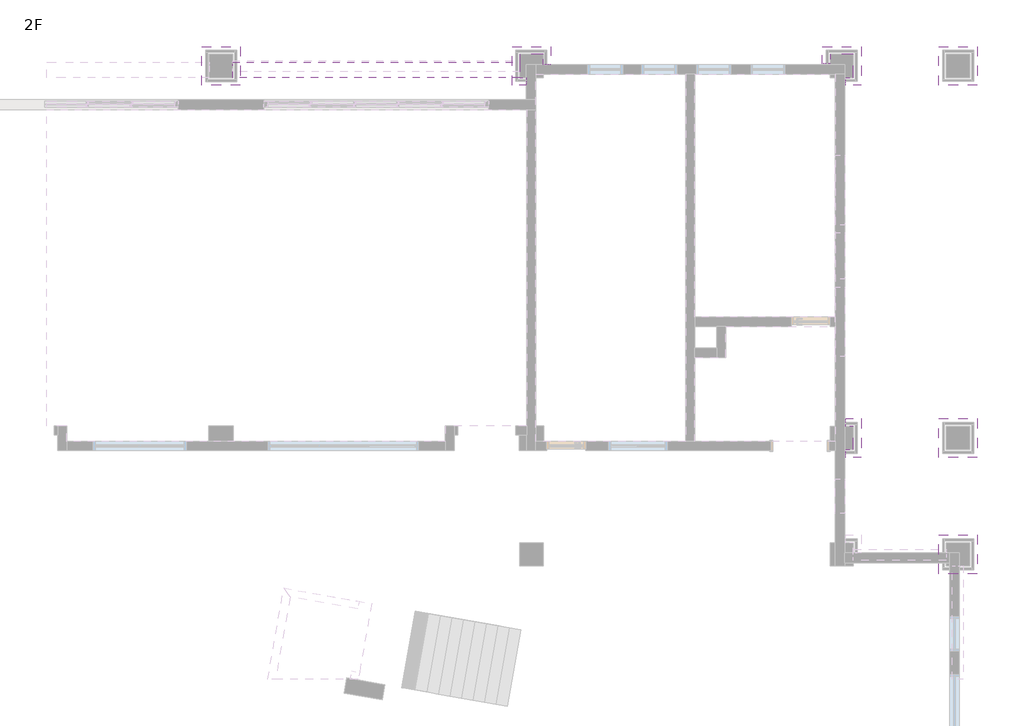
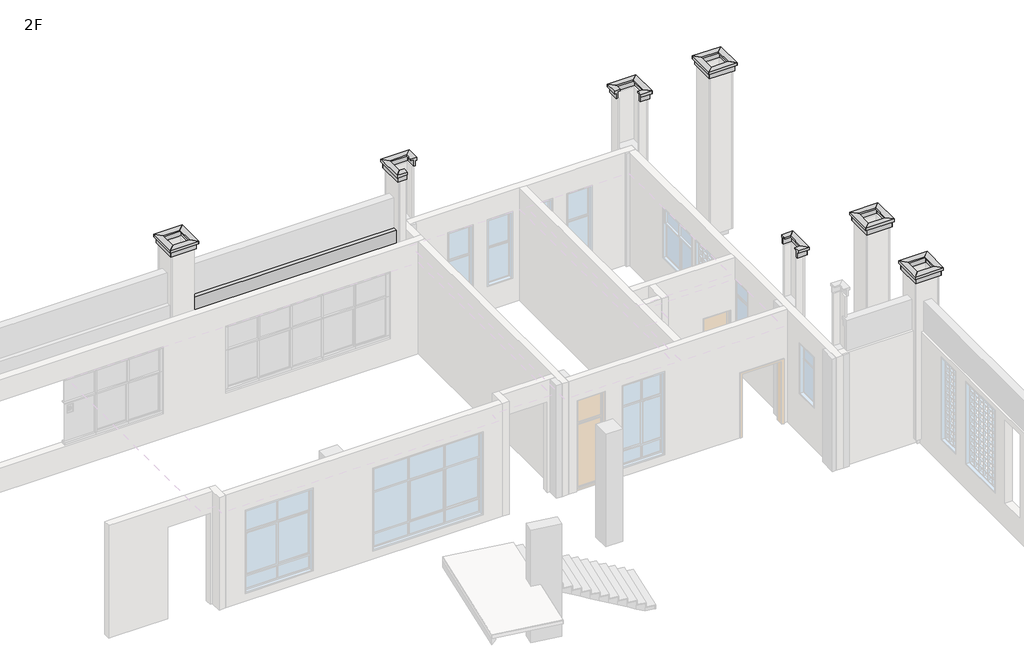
# One storey, part 16 of 16: 8 proxies.
"""IFC4 building model written with IfcOpenShell, lengths in millimetres."""

import ifcopenshell
import ifcopenshell.guid

model = None  # the IFC model being written
_history = None  # IfcOwnerHistory: only IFC2X3 demands one
_inside = {}  # id of a spatial element -> (the spatial element, [elements in it])
_under = {}  # id of a project, library or spatial element -> (it, [spatial elements below it])
_declared = {}  # id of a project -> (the project, [libraries it declares])
_typed = {}  # id of a type object -> (the type object, [elements of that type])
_made_of = {}  # id of a material, layer set ... -> (it, [elements and type objects made of it])


def new_model(schema):
    """Start an empty IFC model of exactly this schema.

    Asked for "IFC4X3", IfcOpenShell would pick the latest addendum, in which some entities
    have other attributes; the version numbers below select the first issue.
    IFC2X3 requires an IfcOwnerHistory on every rooted entity: one is made here for all.
    """
    global model, _history
    if schema == "IFC4X3":
        model = ifcopenshell.file(schema_version=(4, 3, 0, 0))
    else:
        model = ifcopenshell.file(schema=schema)
    _inside.clear()
    _under.clear()
    _declared.clear()
    _typed.clear()
    _made_of.clear()
    _history = None
    if model.schema == "IFC2X3":
        org = make("IfcOrganization", Name="unknown")
        user = make(
            "IfcPersonAndOrganization",
            ThePerson=make("IfcPerson", FamilyName="unknown"),
            TheOrganization=org,
        )
        app = make(
            "IfcApplication",
            ApplicationDeveloper=org,
            Version="unknown",
            ApplicationFullName="unknown",
            ApplicationIdentifier="unknown",
        )
        _history = make(
            "IfcOwnerHistory",
            OwningUser=user,
            OwningApplication=app,
            ChangeAction="ADDED",
            CreationDate=0,
        )
    return model


def make(cls, **values):
    """One entity of the class cls with the attributes given. An attribute that is None is left unset."""
    return model.create_entity(
        cls, **{name: value for name, value in values.items() if value is not None}
    )


def rooted(cls, **values):
    """An entity with a GlobalId (a new one), such as an element, a storey or a relation."""
    return make(cls, GlobalId=ifcopenshell.guid.new(), OwnerHistory=_history, **values)


def si_unit(unit_type, name, prefix=None):
    """IfcSIUnit, for example si_unit("LENGTHUNIT", "METRE", prefix="MILLI")."""
    return make("IfcSIUnit", UnitType=unit_type, Prefix=prefix, Name=name)


def assignment(units):
    """IfcUnitAssignment: the units of a project."""
    return None if units is None else make("IfcUnitAssignment", Units=units)


def point(xyz):
    """IfcCartesianPoint."""
    return None if xyz is None else make("IfcCartesianPoint", Coordinates=xyz)


def direction(xyz):
    """IfcDirection."""
    return None if xyz is None else make("IfcDirection", DirectionRatios=xyz)


def frame(location, z_axis=None, x_axis=None):
    """IfcAxis2Placement3D, a coordinate frame: its origin and axes. An axis left out is left unset."""
    return make(
        "IfcAxis2Placement3D",
        Location=point(location),
        Axis=direction(z_axis),
        RefDirection=direction(x_axis),
    )


def frame_2d(location, x_axis=None):
    """IfcAxis2Placement2D, a coordinate frame in the plane: its origin and x axis."""
    return make(
        "IfcAxis2Placement2D", Location=point(location), RefDirection=direction(x_axis)
    )


def origin():
    """The frame at (0, 0, 0) with its axes left unset."""
    return frame((0.0, 0.0, 0.0))


def place(relative_to, where):
    """IfcLocalPlacement: puts the frame where relative to a parent placement (None: the world)."""
    return make(
        "IfcLocalPlacement", PlacementRelTo=relative_to, RelativePlacement=where
    )


def context(
    kind, dimensions, precision=None, world=None, true_north=None, identifier=None
):
    """IfcGeometricRepresentationContext, for example the 3D "Model" context."""
    return make(
        "IfcGeometricRepresentationContext",
        ContextIdentifier=identifier,
        ContextType=kind,
        CoordinateSpaceDimension=dimensions,
        Precision=precision,
        WorldCoordinateSystem=world,
        TrueNorth=true_north,
    )


def project(units=None, contexts=None):
    """IfcProject with its units and contexts."""
    return rooted(
        "IfcProject",
        Name="project",
        RepresentationContexts=contexts,
        UnitsInContext=assignment(units),
    )


def spatial(cls, under=None, at=None, **own):
    """A site, building, storey or space (cls), placed at a placement, below another one or the project."""
    s = rooted(cls, ObjectPlacement=at, **own)
    if under is not None:
        _under.setdefault(under.id(), (under, []))[1].append(s)
    return s


def polyline(points):
    """IfcPolyline through the points."""
    return make("IfcPolyline", Points=[point(p) for p in points])


def circle_curve(where, radius):
    """IfcCircle in the frame where."""
    return make("IfcCircle", Position=where, Radius=radius)


def trimmed(basis, trim1, trim2, sense, master):
    """IfcTrimmedCurve: the piece of a basis curve between two trims."""
    return make(
        "IfcTrimmedCurve",
        BasisCurve=basis,
        Trim1=trim1,
        Trim2=trim2,
        SenseAgreement=sense,
        MasterRepresentation=master,
    )


def segment(curve, same_sense, transition):
    """IfcCompositeCurveSegment."""
    return make(
        "IfcCompositeCurveSegment",
        Transition=transition,
        SameSense=same_sense,
        ParentCurve=curve,
    )


def composite_curve(segments, self_intersect=None):
    """IfcCompositeCurve: segments joined end to end."""
    return make("IfcCompositeCurve", Segments=segments, SelfIntersect=self_intersect)


def outline(outer, holes=None, kind="AREA"):
    """IfcArbitraryClosedProfileDef: a profile drawn as a closed curve; with holes, ...WithVoids."""
    if holes is None:
        return make("IfcArbitraryClosedProfileDef", ProfileType=kind, OuterCurve=outer)
    return make(
        "IfcArbitraryProfileDefWithVoids",
        ProfileType=kind,
        OuterCurve=outer,
        InnerCurves=holes,
    )


def extrude(swept, where, along, depth):
    """IfcExtrudedAreaSolid: the profile swept, set in the frame where, extruded along a direction by depth."""
    return make(
        "IfcExtrudedAreaSolid",
        SweptArea=swept,
        Position=where,
        ExtrudedDirection=direction(along),
        Depth=depth,
    )


def faces_of(points, faces, orient=None, outer=None):
    """IfcFace entities. A face is a list of loops; a loop is a list of indices into points, from 0.

    orient and outer hold one flag for each loop. By default every Orientation is true, the
    first loop of a face is its IfcFaceOuterBound and the others are IfcFaceBound.
    """
    made = []
    for i, loops in enumerate(faces):
        bounds = []
        for j, loop in enumerate(loops):
            is_outer = j == 0 if outer is None else outer[i][j]
            bounds.append(
                make(
                    "IfcFaceOuterBound" if is_outer else "IfcFaceBound",
                    Bound=make("IfcPolyLoop", Polygon=[points[k] for k in loop]),
                    Orientation=True if orient is None else orient[i][j],
                )
            )
        made.append(make("IfcFace", Bounds=bounds))
    return made


def faceted_brep(points, faces, orient=None, outer=None, voids=None):
    """IfcFacetedBrep: a solid bounded by flat faces; with voids (closed shells), ...WithVoids."""
    shared = [point(p) for p in points]
    hull = make("IfcClosedShell", CfsFaces=faces_of(shared, faces, orient, outer))
    if voids is None:
        return make("IfcFacetedBrep", Outer=hull)
    return make(
        "IfcFacetedBrepWithVoids",
        Outer=hull,
        Voids=[
            make(cls, CfsFaces=faces_of(shared, fs, o, b)) for cls, fs, o, b in voids
        ],
    )


def shape(context_of_items, identifier, shape_type, items):
    """IfcShapeRepresentation: the items that make up one representation, for example the "Body"."""
    return make(
        "IfcShapeRepresentation",
        ContextOfItems=context_of_items,
        RepresentationIdentifier=identifier,
        RepresentationType=shape_type,
        Items=items,
    )


def source(mapping_origin, context_of_items, identifier, shape_type, items):
    """IfcRepresentationMap: a shape defined once, which mapped items show again and again."""
    return make(
        "IfcRepresentationMap",
        MappingOrigin=mapping_origin,
        MappedRepresentation=shape(context_of_items, identifier, shape_type, items),
    )


def transform(
    local_origin,
    x_axis=None,
    y_axis=None,
    z_axis=None,
    scale=None,
    scale2=None,
    scale3=None,
    uniform=True,
):
    """IfcCartesianTransformationOperator3D, or its non-uniform kind. x_axis, y_axis, z_axis: its Axis1, 2, 3."""
    if uniform:
        return make(
            "IfcCartesianTransformationOperator3D",
            Axis1=direction(x_axis),
            Axis2=direction(y_axis),
            LocalOrigin=point(local_origin),
            Scale=scale,
            Axis3=direction(z_axis),
        )
    return make(
        "IfcCartesianTransformationOperator3DnonUniform",
        Axis1=direction(x_axis),
        Axis2=direction(y_axis),
        LocalOrigin=point(local_origin),
        Scale=scale,
        Axis3=direction(z_axis),
        Scale2=scale2,
        Scale3=scale3,
    )


def mapped(mapping_source, mapping_target):
    """IfcMappedItem: shows the shape of a source again, moved by a transform."""
    return make(
        "IfcMappedItem", MappingSource=mapping_source, MappingTarget=mapping_target
    )


def made_of(thing, what):
    """Note that an element or type object is made of a material, layer set ...; save() writes the relation."""
    if what is not None:
        _made_of.setdefault(what.id(), (what, []))[1].append(thing)
    return thing


def element(
    cls,
    number,
    at=None,
    inside=None,
    cuts=None,
    type_object=None,
    material=None,
    context=None,
    identifier="Body",
    shape_type=None,
    held_by="IfcProductDefinitionShape",
    body=None,
    shapes=None,
    **own,
):
    """One element of the class cls, such as IfcWall. Its Tag is "e" and its number.

    at: its placement. inside: the storey or other place that contains it. cuts: it is an
    opening in that element (IfcRelVoidsElement). A single representation is given by context,
    identifier, shape_type and body (its items); several are given by shapes. held_by: the class
    of the entity that holds the representations. save() writes the other relations.
    """
    e = rooted(cls, Tag="e%d" % number, ObjectPlacement=at, **own)
    if body is not None:
        shapes = [shape(context, identifier, shape_type, body)]
    if shapes is not None:
        e.Representation = make(held_by, Representations=shapes)
    if inside is not None:
        _inside.setdefault(inside.id(), (inside, []))[1].append(e)
    if cuts is not None:
        rooted(
            "IfcRelVoidsElement", RelatingBuildingElement=cuts, RelatedOpeningElement=e
        )
    if type_object is not None:
        _typed.setdefault(type_object.id(), (type_object, []))[1].append(e)
    return made_of(e, material)


def aggregate(whole, parts):
    """IfcRelAggregates: a whole, such as a stair, and the parts it consists of."""
    return rooted("IfcRelAggregates", RelatingObject=whole, RelatedObjects=parts)


def save(model, path):
    """Write the relations noted so far, then the file.

    IfcRelAggregates (storeys below a building ...), IfcRelContainedInSpatialStructure (elements
    in a storey), IfcRelDefinesByType, IfcRelAssociatesMaterial and IfcRelDeclares: one each for
    every whole, place, type object, material and project.
    """
    for whole, parts in _under.values():
        aggregate(whole, parts)
    for where, things in _inside.values():
        rooted(
            "IfcRelContainedInSpatialStructure",
            RelatedElements=things,
            RelatingStructure=where,
        )
    for kind, things in _typed.values():
        rooted("IfcRelDefinesByType", RelatedObjects=things, RelatingType=kind)
    for what, things in _made_of.values():
        rooted("IfcRelAssociatesMaterial", RelatedObjects=things, RelatingMaterial=what)
    for by, libraries in _declared.values():
        rooted("IfcRelDeclares", RelatingContext=by, RelatedDefinitions=libraries)
    model.write(path)


def generic_models_00445dfb(model_context):
    return source(origin(), model_context, "Body", "SweptSolid", [
        extrude(outline(composite_curve([segment(polyline([(-1311.4739289, 7400.0), (-1205.9106789, 7400.0)]), True, "CONTINUOUS"), segment(trimmed(circle_curve(frame_2d((-12200.0, 3700.0)), 11600.0), [point((-1205.9106789, 7400.0))], [point((-1205.9106789, 0.0))], False, "CARTESIAN"), True, "CONTINUOUS"), segment(polyline([(-1205.9106789, 0.0), (-1311.4739289, 0.0)]), True, "CONTINUOUS"), segment(trimmed(circle_curve(frame_2d((-12200.0, 3700.0)), 11500.0), [point((-1311.4739289, 0.0))], [point((-1311.4739289, 7400.0))], True, "CARTESIAN"), True, "CONTINUOUS")], self_intersect=False)), frame((0.0, 150.0, 0.0), z_axis=(0.0, 1.0, 0.0), x_axis=(0.0, 0.0, 1.0)), (0.0, 0.0, 1.0), 100.0),
        extrude(outline(composite_curve([segment(polyline([(0.0, 7400.0), (0.0, 0.0), (-1311.4739289, 0.0)]), True, "CONTINUOUS"), segment(trimmed(circle_curve(frame_2d((-12200.0, 3700.0)), 11500.0), [point((-1311.4739289, 0.0))], [point((-1311.4739289, 7400.0))], True, "CARTESIAN"), True, "CONTINUOUS"), segment(polyline([(-1311.4739289, 7400.0), (0.0, 7400.0)]), True, "CONTINUOUS")], self_intersect=False)), frame((0.0, -150.0, 0.0), z_axis=(0.0, 1.0, 0.0), x_axis=(0.0, 0.0, 1.0)), (0.0, 0.0, 1.0), 300.0),
    ])


model = new_model("IFC4")

# Units and contexts
model_context = context("Model", 3, world=origin())
ifc_project = project(units=[si_unit("LENGTHUNIT", "METRE", prefix="MILLI")], contexts=[model_context])

# Site, building, storey
site = spatial("IfcSite", under=ifc_project)
building = spatial("IfcBuilding", under=site)
storey = spatial("IfcBuildingStorey", under=building, Name="2F", Elevation=4200.0)

# Proxies
placement = place(None, origin())
generic_models_shape = generic_models_00445dfb(model_context)
element("IfcBuildingElementProxy", 1, Name="走廊板 : h=300mm", ObjectType="走廊板 : h=300mm", at=placement, inside=storey, context=model_context, shape_type="MappedRepresentation", body=[
    mapped(generic_models_shape, transform((67300.0, 33050.0, 8400.0), x_axis=(1.0, 0.0, 0.0), y_axis=(0.0, 1.0, 0.0), z_axis=(0.0, 0.0, 1.0))),
])
element("IfcBuildingElementProxy", 2, Name="QS2", ObjectType="QS2", at=placement, inside=storey, context=model_context, shape_type="Brep", body=[
    faceted_brep([(66550.0, 32749.640208, 10300.0), (66600.0, 32799.640208, 10300.0), (66600.0, 32799.640208, 10550.0), (66700.0, 32899.640208, 10550.0), (66700.0, 32899.640208, 10600.0), (66500.0, 32699.640208, 10600.0), (66500.0, 32699.640208, 10500.0), (66550.0, 32749.640208, 10500.0), (66550.0, 33650.0, 10300.0), (66550.0, 33650.0, 10500.0), (66500.0, 33700.0, 10500.0), (66500.0, 33700.0, 10600.0), (66700.0, 33500.0, 10600.0), (66700.0, 33500.0, 10550.0), (66600.0, 33600.0, 10550.0), (66600.0, 33600.0, 10300.0)], [[[0, 1, 2, 3, 4, 5, 6, 7]], [[8, 9, 10, 11, 12, 13, 14, 15]], [[1, 0, 8, 15]], [[2, 1, 15, 14]], [[3, 2, 14, 13]], [[4, 3, 13, 12]], [[5, 4, 12, 11]], [[6, 5, 11, 10]], [[7, 6, 10, 9]], [[0, 7, 9, 8]]]),
    faceted_brep([(66550.0, 33650.0, 10300.0), (66600.0, 33600.0, 10300.0), (66600.0, 33600.0, 10550.0), (66700.0, 33500.0, 10550.0), (66700.0, 33500.0, 10600.0), (66500.0, 33700.0, 10600.0), (66500.0, 33700.0, 10500.0), (66550.0, 33650.0, 10500.0), (67450.0, 33650.0, 10300.0), (67450.0, 33650.0, 10500.0), (67500.0, 33700.0, 10500.0), (67500.0, 33700.0, 10600.0), (67300.0, 33500.0, 10600.0), (67300.0, 33500.0, 10550.0), (67400.0, 33600.0, 10550.0), (67400.0, 33600.0, 10300.0)], [[[0, 1, 2, 3, 4, 5, 6, 7]], [[8, 9, 10, 11, 12, 13, 14, 15]], [[1, 0, 8, 15]], [[2, 1, 15, 14]], [[3, 2, 14, 13]], [[4, 3, 13, 12]], [[5, 4, 12, 11]], [[6, 5, 11, 10]], [[7, 6, 10, 9]], [[0, 7, 9, 8]]]),
    faceted_brep([(67450.0, 33650.0, 10300.0), (67400.0, 33600.0, 10300.0), (67400.0, 33600.0, 10550.0), (67300.0, 33500.0, 10550.0), (67300.0, 33500.0, 10600.0), (67500.0, 33700.0, 10600.0), (67500.0, 33700.0, 10500.0), (67450.0, 33650.0, 10500.0), (67450.0, 32749.640208, 10300.0), (67450.0, 32749.640208, 10500.0), (67500.0, 32699.640208, 10500.0), (67500.0, 32699.640208, 10600.0), (67300.0, 32899.640208, 10600.0), (67300.0, 32899.640208, 10550.0), (67400.0, 32799.640208, 10550.0), (67400.0, 32799.640208, 10300.0)], [[[0, 1, 2, 3, 4, 5, 6, 7]], [[8, 9, 10, 11, 12, 13, 14, 15]], [[1, 0, 8, 15]], [[2, 1, 15, 14]], [[3, 2, 14, 13]], [[4, 3, 13, 12]], [[5, 4, 12, 11]], [[6, 5, 11, 10]], [[7, 6, 10, 9]], [[0, 7, 9, 8]]]),
    faceted_brep([(67450.0, 32749.640208, 10300.0), (67400.0, 32799.640208, 10300.0), (67400.0, 32799.640208, 10550.0), (67300.0, 32899.640208, 10550.0), (67300.0, 32899.640208, 10600.0), (67500.0, 32699.640208, 10600.0), (67500.0, 32699.640208, 10500.0), (67450.0, 32749.640208, 10500.0), (66550.0, 32749.640208, 10300.0), (66550.0, 32749.640208, 10500.0), (66500.0, 32699.640208, 10500.0), (66500.0, 32699.640208, 10600.0), (66700.0, 32899.640208, 10600.0), (66700.0, 32899.640208, 10550.0), (66600.0, 32799.640208, 10550.0), (66600.0, 32799.640208, 10300.0)], [[[0, 1, 2, 3, 4, 5, 6, 7]], [[8, 9, 10, 11, 12, 13, 14, 15]], [[1, 0, 8, 15]], [[2, 1, 15, 14]], [[3, 2, 14, 13]], [[4, 3, 13, 12]], [[5, 4, 12, 11]], [[6, 5, 11, 10]], [[7, 6, 10, 9]], [[0, 7, 9, 8]]]),
])
element("IfcBuildingElementProxy", 3, Name="QS2", ObjectType="QS2", at=placement, inside=storey, context=model_context, shape_type="Brep", body=[
    faceted_brep([(75450.0, 33232.6954642, 10300.0), (75450.0, 33232.6954642, 10500.0), (75500.0, 33232.6954642, 10500.0), (75500.0, 33232.6954642, 10600.0), (75300.0, 33232.6954642, 10600.0), (75300.0, 33232.6954642, 10550.0), (75400.0, 33232.6954642, 10550.0), (75400.0, 33232.6954642, 10300.0), (75450.0, 33650.0, 10300.0), (75400.0, 33600.0, 10300.0), (75400.0, 33600.0, 10550.0), (75300.0, 33500.0, 10550.0), (75300.0, 33500.0, 10600.0), (75500.0, 33700.0, 10600.0), (75500.0, 33700.0, 10500.0), (75450.0, 33650.0, 10500.0)], [[[0, 1, 2, 3, 4, 5, 6, 7]], [[8, 9, 10, 11, 12, 13, 14, 15]], [[0, 7, 9, 8]], [[7, 6, 10, 9]], [[6, 5, 11, 10]], [[5, 4, 12, 11]], [[4, 3, 13, 12]], [[3, 2, 14, 13]], [[2, 1, 15, 14]], [[1, 0, 8, 15]]]),
    faceted_brep([(75450.0, 33650.0, 10300.0), (75450.0, 33650.0, 10500.0), (75500.0, 33700.0, 10500.0), (75500.0, 33700.0, 10600.0), (75300.0, 33500.0, 10600.0), (75300.0, 33500.0, 10550.0), (75400.0, 33600.0, 10550.0), (75400.0, 33600.0, 10300.0), (74550.0, 33650.0, 10300.0), (74600.0, 33600.0, 10300.0), (74600.0, 33600.0, 10550.0), (74700.0, 33500.0, 10550.0), (74700.0, 33500.0, 10600.0), (74500.0, 33700.0, 10600.0), (74500.0, 33700.0, 10500.0), (74550.0, 33650.0, 10500.0)], [[[0, 1, 2, 3, 4, 5, 6, 7]], [[8, 9, 10, 11, 12, 13, 14, 15]], [[0, 7, 9, 8]], [[7, 6, 10, 9]], [[6, 5, 11, 10]], [[5, 4, 12, 11]], [[4, 3, 13, 12]], [[3, 2, 14, 13]], [[2, 1, 15, 14]], [[1, 0, 8, 15]]]),
    faceted_brep([(74550.0, 33650.0, 10300.0), (74550.0, 33650.0, 10500.0), (74500.0, 33700.0, 10500.0), (74500.0, 33700.0, 10600.0), (74700.0, 33500.0, 10600.0), (74700.0, 33500.0, 10550.0), (74600.0, 33600.0, 10550.0), (74600.0, 33600.0, 10300.0), (74550.0, 32750.0, 10300.0), (74600.0, 32800.0, 10300.0), (74600.0, 32800.0, 10550.0), (74700.0, 32900.0, 10550.0), (74700.0, 32900.0, 10600.0), (74500.0, 32700.0, 10600.0), (74500.0, 32700.0, 10500.0), (74550.0, 32750.0, 10500.0)], [[[0, 1, 2, 3, 4, 5, 6, 7]], [[8, 9, 10, 11, 12, 13, 14, 15]], [[0, 7, 9, 8]], [[7, 6, 10, 9]], [[6, 5, 11, 10]], [[5, 4, 12, 11]], [[4, 3, 13, 12]], [[3, 2, 14, 13]], [[2, 1, 15, 14]], [[1, 0, 8, 15]]]),
    faceted_brep([(74550.0, 32750.0, 10300.0), (74550.0, 32750.0, 10500.0), (74500.0, 32700.0, 10500.0), (74500.0, 32700.0, 10600.0), (74700.0, 32900.0, 10600.0), (74700.0, 32900.0, 10550.0), (74600.0, 32800.0, 10550.0), (74600.0, 32800.0, 10300.0), (74867.0, 32750.0, 10300.0), (74867.0, 32800.0, 10300.0), (74867.0, 32800.0, 10550.0), (74867.0, 32900.0, 10550.0), (74867.0, 32900.0, 10600.0), (74867.0, 32700.0, 10600.0), (74867.0, 32700.0, 10500.0), (74867.0, 32750.0, 10500.0)], [[[0, 1, 2, 3, 4, 5, 6, 7]], [[8, 9, 10, 11, 12, 13, 14, 15]], [[0, 7, 9, 8]], [[7, 6, 10, 9]], [[6, 5, 11, 10]], [[5, 4, 12, 11]], [[4, 3, 13, 12]], [[3, 2, 14, 13]], [[2, 1, 15, 14]], [[1, 0, 8, 15]]]),
])
element("IfcBuildingElementProxy", 4, Name="QS2", ObjectType="QS2", at=placement, inside=storey, context=model_context, shape_type="Brep", body=[
    faceted_brep([(86450.0, 32750.0, 10300.0), (86450.0, 32750.0, 10500.0), (86500.0, 32700.0, 10500.0), (86500.0, 32700.0, 10600.0), (86300.0, 32900.0, 10600.0), (86300.0, 32900.0, 10550.0), (86400.0, 32800.0, 10550.0), (86400.0, 32800.0, 10300.0), (86450.0, 33650.0, 10300.0), (86400.0, 33600.0, 10300.0), (86400.0, 33600.0, 10550.0), (86300.0, 33500.0, 10550.0), (86300.0, 33500.0, 10600.0), (86500.0, 33700.0, 10600.0), (86500.0, 33700.0, 10500.0), (86450.0, 33650.0, 10500.0)], [[[0, 1, 2, 3, 4, 5, 6, 7]], [[8, 9, 10, 11, 12, 13, 14, 15]], [[0, 7, 9, 8]], [[7, 6, 10, 9]], [[6, 5, 11, 10]], [[5, 4, 12, 11]], [[4, 3, 13, 12]], [[3, 2, 14, 13]], [[2, 1, 15, 14]], [[1, 0, 8, 15]]]),
    faceted_brep([(86450.0, 33650.0, 10300.0), (86450.0, 33650.0, 10500.0), (86500.0, 33700.0, 10500.0), (86500.0, 33700.0, 10600.0), (86300.0, 33500.0, 10600.0), (86300.0, 33500.0, 10550.0), (86400.0, 33600.0, 10550.0), (86400.0, 33600.0, 10300.0), (85550.0, 33650.0, 10300.0), (85600.0, 33600.0, 10300.0), (85600.0, 33600.0, 10550.0), (85700.0, 33500.0, 10550.0), (85700.0, 33500.0, 10600.0), (85500.0, 33700.0, 10600.0), (85500.0, 33700.0, 10500.0), (85550.0, 33650.0, 10500.0)], [[[0, 1, 2, 3, 4, 5, 6, 7]], [[8, 9, 10, 11, 12, 13, 14, 15]], [[0, 7, 9, 8]], [[7, 6, 10, 9]], [[6, 5, 11, 10]], [[5, 4, 12, 11]], [[4, 3, 13, 12]], [[3, 2, 14, 13]], [[2, 1, 15, 14]], [[1, 0, 8, 15]]]),
    faceted_brep([(85550.0, 33650.0, 10300.0), (85550.0, 33650.0, 10500.0), (85500.0, 33700.0, 10500.0), (85500.0, 33700.0, 10600.0), (85700.0, 33500.0, 10600.0), (85700.0, 33500.0, 10550.0), (85600.0, 33600.0, 10550.0), (85600.0, 33600.0, 10300.0), (85550.0, 32750.0, 10300.0), (85600.0, 32800.0, 10300.0), (85600.0, 32800.0, 10550.0), (85700.0, 32900.0, 10550.0), (85700.0, 32900.0, 10600.0), (85500.0, 32700.0, 10600.0), (85500.0, 32700.0, 10500.0), (85550.0, 32750.0, 10500.0)], [[[0, 1, 2, 3, 4, 5, 6, 7]], [[8, 9, 10, 11, 12, 13, 14, 15]], [[0, 7, 9, 8]], [[7, 6, 10, 9]], [[6, 5, 11, 10]], [[5, 4, 12, 11]], [[4, 3, 13, 12]], [[3, 2, 14, 13]], [[2, 1, 15, 14]], [[1, 0, 8, 15]]]),
    faceted_brep([(85550.0, 32750.0, 10300.0), (85550.0, 32750.0, 10500.0), (85500.0, 32700.0, 10500.0), (85500.0, 32700.0, 10600.0), (85700.0, 32900.0, 10600.0), (85700.0, 32900.0, 10550.0), (85600.0, 32800.0, 10550.0), (85600.0, 32800.0, 10300.0), (86450.0, 32750.0, 10300.0), (86400.0, 32800.0, 10300.0), (86400.0, 32800.0, 10550.0), (86300.0, 32900.0, 10550.0), (86300.0, 32900.0, 10600.0), (86500.0, 32700.0, 10600.0), (86500.0, 32700.0, 10500.0), (86450.0, 32750.0, 10500.0)], [[[0, 1, 2, 3, 4, 5, 6, 7]], [[8, 9, 10, 11, 12, 13, 14, 15]], [[0, 7, 9, 8]], [[7, 6, 10, 9]], [[6, 5, 11, 10]], [[5, 4, 12, 11]], [[4, 3, 13, 12]], [[3, 2, 14, 13]], [[2, 1, 15, 14]], [[1, 0, 8, 15]]]),
])
element("IfcBuildingElementProxy", 5, Name="QS2", ObjectType="QS2", at=placement, inside=storey, context=model_context, shape_type="Brep", body=[
    faceted_brep([(86450.0, 23150.0, 10300.0), (86450.0, 23150.0, 10500.0), (86500.0, 23100.0, 10500.0), (86500.0, 23100.0, 10600.0), (86300.0, 23300.0, 10600.0), (86300.0, 23300.0, 10550.0), (86400.0, 23200.0, 10550.0), (86400.0, 23200.0, 10300.0), (86450.0, 24050.0, 10300.0), (86400.0, 24000.0, 10300.0), (86400.0, 24000.0, 10550.0), (86300.0, 23900.0, 10550.0), (86300.0, 23900.0, 10600.0), (86500.0, 24100.0, 10600.0), (86500.0, 24100.0, 10500.0), (86450.0, 24050.0, 10500.0)], [[[0, 1, 2, 3, 4, 5, 6, 7]], [[8, 9, 10, 11, 12, 13, 14, 15]], [[0, 7, 9, 8]], [[7, 6, 10, 9]], [[6, 5, 11, 10]], [[5, 4, 12, 11]], [[4, 3, 13, 12]], [[3, 2, 14, 13]], [[2, 1, 15, 14]], [[1, 0, 8, 15]]]),
    faceted_brep([(86450.0, 24050.0, 10300.0), (86450.0, 24050.0, 10500.0), (86500.0, 24100.0, 10500.0), (86500.0, 24100.0, 10600.0), (86300.0, 23900.0, 10600.0), (86300.0, 23900.0, 10550.0), (86400.0, 24000.0, 10550.0), (86400.0, 24000.0, 10300.0), (85550.0, 24050.0, 10300.0), (85600.0, 24000.0, 10300.0), (85600.0, 24000.0, 10550.0), (85700.0, 23900.0, 10550.0), (85700.0, 23900.0, 10600.0), (85500.0, 24100.0, 10600.0), (85500.0, 24100.0, 10500.0), (85550.0, 24050.0, 10500.0)], [[[0, 1, 2, 3, 4, 5, 6, 7]], [[8, 9, 10, 11, 12, 13, 14, 15]], [[0, 7, 9, 8]], [[7, 6, 10, 9]], [[6, 5, 11, 10]], [[5, 4, 12, 11]], [[4, 3, 13, 12]], [[3, 2, 14, 13]], [[2, 1, 15, 14]], [[1, 0, 8, 15]]]),
    faceted_brep([(85550.0, 24050.0, 10300.0), (85550.0, 24050.0, 10500.0), (85500.0, 24100.0, 10500.0), (85500.0, 24100.0, 10600.0), (85700.0, 23900.0, 10600.0), (85700.0, 23900.0, 10550.0), (85600.0, 24000.0, 10550.0), (85600.0, 24000.0, 10300.0), (85550.0, 23150.0, 10300.0), (85600.0, 23200.0, 10300.0), (85600.0, 23200.0, 10550.0), (85700.0, 23300.0, 10550.0), (85700.0, 23300.0, 10600.0), (85500.0, 23100.0, 10600.0), (85500.0, 23100.0, 10500.0), (85550.0, 23150.0, 10500.0)], [[[0, 1, 2, 3, 4, 5, 6, 7]], [[8, 9, 10, 11, 12, 13, 14, 15]], [[0, 7, 9, 8]], [[7, 6, 10, 9]], [[6, 5, 11, 10]], [[5, 4, 12, 11]], [[4, 3, 13, 12]], [[3, 2, 14, 13]], [[2, 1, 15, 14]], [[1, 0, 8, 15]]]),
    faceted_brep([(85550.0, 23150.0, 10300.0), (85550.0, 23150.0, 10500.0), (85500.0, 23100.0, 10500.0), (85500.0, 23100.0, 10600.0), (85700.0, 23300.0, 10600.0), (85700.0, 23300.0, 10550.0), (85600.0, 23200.0, 10550.0), (85600.0, 23200.0, 10300.0), (86450.0, 23150.0, 10300.0), (86400.0, 23200.0, 10300.0), (86400.0, 23200.0, 10550.0), (86300.0, 23300.0, 10550.0), (86300.0, 23300.0, 10600.0), (86500.0, 23100.0, 10600.0), (86500.0, 23100.0, 10500.0), (86450.0, 23150.0, 10500.0)], [[[0, 1, 2, 3, 4, 5, 6, 7]], [[8, 9, 10, 11, 12, 13, 14, 15]], [[0, 7, 9, 8]], [[7, 6, 10, 9]], [[6, 5, 11, 10]], [[5, 4, 12, 11]], [[4, 3, 13, 12]], [[3, 2, 14, 13]], [[2, 1, 15, 14]], [[1, 0, 8, 15]]]),
])
element("IfcBuildingElementProxy", 6, Name="QS2", ObjectType="QS2", at=placement, inside=storey, context=model_context, shape_type="Brep", body=[
    faceted_brep([(86450.0, 20150.0, 10300.0), (86450.0, 20150.0, 10500.0), (86500.0, 20100.0, 10500.0), (86500.0, 20100.0, 10600.0), (86300.0, 20300.0, 10600.0), (86300.0, 20300.0, 10550.0), (86400.0, 20200.0, 10550.0), (86400.0, 20200.0, 10300.0), (86450.0, 21050.0, 10300.0), (86400.0, 21000.0, 10300.0), (86400.0, 21000.0, 10550.0), (86300.0, 20900.0, 10550.0), (86300.0, 20900.0, 10600.0), (86500.0, 21100.0, 10600.0), (86500.0, 21100.0, 10500.0), (86450.0, 21050.0, 10500.0)], [[[0, 1, 2, 3, 4, 5, 6, 7]], [[8, 9, 10, 11, 12, 13, 14, 15]], [[0, 7, 9, 8]], [[7, 6, 10, 9]], [[6, 5, 11, 10]], [[5, 4, 12, 11]], [[4, 3, 13, 12]], [[3, 2, 14, 13]], [[2, 1, 15, 14]], [[1, 0, 8, 15]]]),
    faceted_brep([(86450.0, 21050.0, 10300.0), (86450.0, 21050.0, 10500.0), (86500.0, 21100.0, 10500.0), (86500.0, 21100.0, 10600.0), (86300.0, 20900.0, 10600.0), (86300.0, 20900.0, 10550.0), (86400.0, 21000.0, 10550.0), (86400.0, 21000.0, 10300.0), (85550.0, 21050.0, 10300.0), (85600.0, 21000.0, 10300.0), (85600.0, 21000.0, 10550.0), (85700.0, 20900.0, 10550.0), (85700.0, 20900.0, 10600.0), (85500.0, 21100.0, 10600.0), (85500.0, 21100.0, 10500.0), (85550.0, 21050.0, 10500.0)], [[[0, 1, 2, 3, 4, 5, 6, 7]], [[8, 9, 10, 11, 12, 13, 14, 15]], [[0, 7, 9, 8]], [[7, 6, 10, 9]], [[6, 5, 11, 10]], [[5, 4, 12, 11]], [[4, 3, 13, 12]], [[3, 2, 14, 13]], [[2, 1, 15, 14]], [[1, 0, 8, 15]]]),
    faceted_brep([(85550.0, 21050.0, 10300.0), (85550.0, 21050.0, 10500.0), (85500.0, 21100.0, 10500.0), (85500.0, 21100.0, 10600.0), (85700.0, 20900.0, 10600.0), (85700.0, 20900.0, 10550.0), (85600.0, 21000.0, 10550.0), (85600.0, 21000.0, 10300.0), (85550.0, 20150.0, 10300.0), (85600.0, 20200.0, 10300.0), (85600.0, 20200.0, 10550.0), (85700.0, 20300.0, 10550.0), (85700.0, 20300.0, 10600.0), (85500.0, 20100.0, 10600.0), (85500.0, 20100.0, 10500.0), (85550.0, 20150.0, 10500.0)], [[[0, 1, 2, 3, 4, 5, 6, 7]], [[8, 9, 10, 11, 12, 13, 14, 15]], [[0, 7, 9, 8]], [[7, 6, 10, 9]], [[6, 5, 11, 10]], [[5, 4, 12, 11]], [[4, 3, 13, 12]], [[3, 2, 14, 13]], [[2, 1, 15, 14]], [[1, 0, 8, 15]]]),
    faceted_brep([(85550.0, 20150.0, 10300.0), (85550.0, 20150.0, 10500.0), (85500.0, 20100.0, 10500.0), (85500.0, 20100.0, 10600.0), (85700.0, 20300.0, 10600.0), (85700.0, 20300.0, 10550.0), (85600.0, 20200.0, 10550.0), (85600.0, 20200.0, 10300.0), (86450.0, 20150.0, 10300.0), (86400.0, 20200.0, 10300.0), (86400.0, 20200.0, 10550.0), (86300.0, 20300.0, 10550.0), (86300.0, 20300.0, 10600.0), (86500.0, 20100.0, 10600.0), (86500.0, 20100.0, 10500.0), (86450.0, 20150.0, 10500.0)], [[[0, 1, 2, 3, 4, 5, 6, 7]], [[8, 9, 10, 11, 12, 13, 14, 15]], [[0, 7, 9, 8]], [[7, 6, 10, 9]], [[6, 5, 11, 10]], [[5, 4, 12, 11]], [[4, 3, 13, 12]], [[3, 2, 14, 13]], [[2, 1, 15, 14]], [[1, 0, 8, 15]]]),
])
element("IfcBuildingElementProxy", 7, Name="QS2", ObjectType="QS2", at=placement, inside=storey, context=model_context, shape_type="Brep", body=[
    faceted_brep([(82550.0, 33252.6954639, 10300.0), (82600.0, 33252.6954639, 10300.0), (82600.0, 33252.6954639, 10550.0), (82700.0, 33252.6954639, 10550.0), (82700.0, 33252.6954639, 10600.0), (82500.0, 33252.6954639, 10600.0), (82500.0, 33252.6954639, 10500.0), (82550.0, 33252.6954639, 10500.0), (82550.0, 33650.0, 10300.0), (82550.0, 33650.0, 10500.0), (82500.0, 33700.0, 10500.0), (82500.0, 33700.0, 10600.0), (82700.0, 33500.0, 10600.0), (82700.0, 33500.0, 10550.0), (82600.0, 33600.0, 10550.0), (82600.0, 33600.0, 10300.0)], [[[0, 1, 2, 3, 4, 5, 6, 7]], [[8, 9, 10, 11, 12, 13, 14, 15]], [[0, 7, 9, 8]], [[7, 6, 10, 9]], [[6, 5, 11, 10]], [[5, 4, 12, 11]], [[4, 3, 13, 12]], [[3, 2, 14, 13]], [[2, 1, 15, 14]], [[1, 0, 8, 15]]]),
    faceted_brep([(82550.0, 33650.0, 10300.0), (82600.0, 33600.0, 10300.0), (82600.0, 33600.0, 10550.0), (82700.0, 33500.0, 10550.0), (82700.0, 33500.0, 10600.0), (82500.0, 33700.0, 10600.0), (82500.0, 33700.0, 10500.0), (82550.0, 33650.0, 10500.0), (83450.0, 33650.0, 10300.0), (83450.0, 33650.0, 10500.0), (83500.0, 33700.0, 10500.0), (83500.0, 33700.0, 10600.0), (83300.0, 33500.0, 10600.0), (83300.0, 33500.0, 10550.0), (83400.0, 33600.0, 10550.0), (83400.0, 33600.0, 10300.0)], [[[0, 1, 2, 3, 4, 5, 6, 7]], [[8, 9, 10, 11, 12, 13, 14, 15]], [[0, 7, 9, 8]], [[7, 6, 10, 9]], [[6, 5, 11, 10]], [[5, 4, 12, 11]], [[4, 3, 13, 12]], [[3, 2, 14, 13]], [[2, 1, 15, 14]], [[1, 0, 8, 15]]]),
    faceted_brep([(83450.0, 33650.0, 10300.0), (83400.0, 33600.0, 10300.0), (83400.0, 33600.0, 10550.0), (83300.0, 33500.0, 10550.0), (83300.0, 33500.0, 10600.0), (83500.0, 33700.0, 10600.0), (83500.0, 33700.0, 10500.0), (83450.0, 33650.0, 10500.0), (83450.0, 32750.0, 10300.0), (83450.0, 32750.0, 10500.0), (83500.0, 32700.0, 10500.0), (83500.0, 32700.0, 10600.0), (83300.0, 32900.0, 10600.0), (83300.0, 32900.0, 10550.0), (83400.0, 32800.0, 10550.0), (83400.0, 32800.0, 10300.0)], [[[0, 1, 2, 3, 4, 5, 6, 7]], [[8, 9, 10, 11, 12, 13, 14, 15]], [[0, 7, 9, 8]], [[7, 6, 10, 9]], [[6, 5, 11, 10]], [[5, 4, 12, 11]], [[4, 3, 13, 12]], [[3, 2, 14, 13]], [[2, 1, 15, 14]], [[1, 0, 8, 15]]]),
    faceted_brep([(83450.0, 32750.0, 10300.0), (83400.0, 32800.0, 10300.0), (83400.0, 32800.0, 10550.0), (83300.0, 32900.0, 10550.0), (83300.0, 32900.0, 10600.0), (83500.0, 32700.0, 10600.0), (83500.0, 32700.0, 10500.0), (83450.0, 32750.0, 10500.0), (83102.9999998, 32750.0, 10300.0), (83102.9999998, 32750.0, 10500.0), (83102.9999998, 32700.0, 10500.0), (83102.9999998, 32700.0, 10600.0), (83102.9999998, 32900.0, 10600.0), (83102.9999998, 32900.0, 10550.0), (83102.9999998, 32800.0, 10550.0), (83102.9999998, 32800.0, 10300.0)], [[[0, 1, 2, 3, 4, 5, 6, 7]], [[8, 9, 10, 11, 12, 13, 14, 15]], [[0, 7, 9, 8]], [[7, 6, 10, 9]], [[6, 5, 11, 10]], [[5, 4, 12, 11]], [[4, 3, 13, 12]], [[3, 2, 14, 13]], [[2, 1, 15, 14]], [[1, 0, 8, 15]]]),
])
element("IfcBuildingElementProxy", 8, Name="QS2", ObjectType="QS2", at=placement, inside=storey, context=model_context, shape_type="Brep", body=[
    faceted_brep([(83102.9999998, 24050.0, 10300.0), (83102.9999998, 24000.0, 10300.0), (83102.9999998, 24000.0, 10550.0), (83102.9999998, 23900.0, 10550.0), (83102.9999998, 23900.0, 10600.0), (83102.9999998, 24100.0, 10600.0), (83102.9999998, 24100.0, 10500.0), (83102.9999998, 24050.0, 10500.0), (83450.0, 24050.0, 10300.0), (83450.0, 24050.0, 10500.0), (83500.0, 24100.0, 10500.0), (83500.0, 24100.0, 10600.0), (83300.0, 23900.0, 10600.0), (83300.0, 23900.0, 10550.0), (83400.0, 24000.0, 10550.0), (83400.0, 24000.0, 10300.0)], [[[0, 1, 2, 3, 4, 5, 6, 7]], [[8, 9, 10, 11, 12, 13, 14, 15]], [[0, 7, 9, 8]], [[7, 6, 10, 9]], [[6, 5, 11, 10]], [[5, 4, 12, 11]], [[4, 3, 13, 12]], [[3, 2, 14, 13]], [[2, 1, 15, 14]], [[1, 0, 8, 15]]]),
    faceted_brep([(83450.0, 24050.0, 10300.0), (83400.0, 24000.0, 10300.0), (83400.0, 24000.0, 10550.0), (83300.0, 23900.0, 10550.0), (83300.0, 23900.0, 10600.0), (83500.0, 24100.0, 10600.0), (83500.0, 24100.0, 10500.0), (83450.0, 24050.0, 10500.0), (83450.0, 23150.0, 10300.0), (83450.0, 23150.0, 10500.0), (83500.0, 23100.0, 10500.0), (83500.0, 23100.0, 10600.0), (83300.0, 23300.0, 10600.0), (83300.0, 23300.0, 10550.0), (83400.0, 23200.0, 10550.0), (83400.0, 23200.0, 10300.0)], [[[0, 1, 2, 3, 4, 5, 6, 7]], [[8, 9, 10, 11, 12, 13, 14, 15]], [[0, 7, 9, 8]], [[7, 6, 10, 9]], [[6, 5, 11, 10]], [[5, 4, 12, 11]], [[4, 3, 13, 12]], [[3, 2, 14, 13]], [[2, 1, 15, 14]], [[1, 0, 8, 15]]]),
    faceted_brep([(83450.0, 23150.0, 10300.0), (83400.0, 23200.0, 10300.0), (83400.0, 23200.0, 10550.0), (83300.0, 23300.0, 10550.0), (83300.0, 23300.0, 10600.0), (83500.0, 23100.0, 10600.0), (83500.0, 23100.0, 10500.0), (83450.0, 23150.0, 10500.0), (83102.9999998, 23150.0, 10300.0), (83102.9999998, 23150.0, 10500.0), (83102.9999998, 23100.0, 10500.0), (83102.9999998, 23100.0, 10600.0), (83102.9999998, 23300.0, 10600.0), (83102.9999998, 23300.0, 10550.0), (83102.9999998, 23200.0, 10550.0), (83102.9999998, 23200.0, 10300.0)], [[[0, 1, 2, 3, 4, 5, 6, 7]], [[8, 9, 10, 11, 12, 13, 14, 15]], [[0, 7, 9, 8]], [[7, 6, 10, 9]], [[6, 5, 11, 10]], [[5, 4, 12, 11]], [[4, 3, 13, 12]], [[3, 2, 14, 13]], [[2, 1, 15, 14]], [[1, 0, 8, 15]]]),
])

save(model, "model.ifc")
